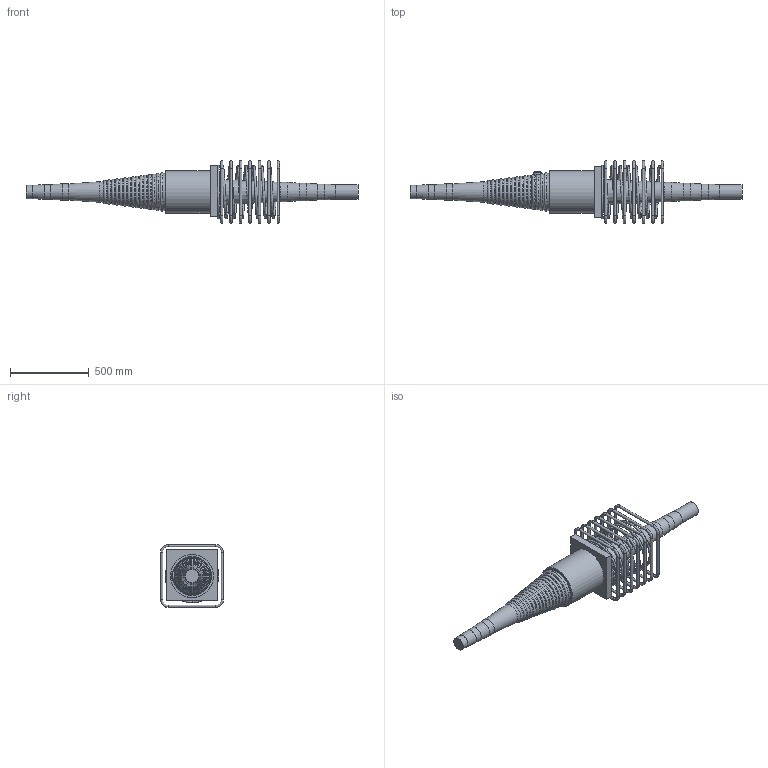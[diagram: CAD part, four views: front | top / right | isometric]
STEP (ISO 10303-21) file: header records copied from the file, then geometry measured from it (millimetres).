
FILE_DESCRIPTION(/* description */ (''),/* implementation_level */ '2;1');
FILE_NAME(/* name */ 'Z:\04 Publications\05 Give-out\BBR\6_3D_Models\BBR VT CONA CMI\BBR VT CONA CMI SP\01606\BBR VT CONA CMI SP 1606_Coupler H Assembly_CS-34,28.stp',/* time_stamp */ '2017-05-05T15:46:07+02:00',/* author */ ('IP'),/* organization */ (''),/* preprocessor_version */ 'ST-DEVELOPER v16.1',/* originating_system */ 'Autodesk Inventor 2016',/* authorisation */ '');
FILE_SCHEMA (('AUTOMOTIVE_DESIGN { 1 0 10303 214 3 1 1 }'));
Products named in the file (1): BBR VT CONA CMI SP 1606_Coupler H Assembly_CS-34,28
Bounding box: 2109 x 400 x 400 mm (x, y, z)
Volume: 51230367 mm3; surface area: 2104967.4 mm2
Topology: 9 solids, 9 shells, 881 faces, 2289 edges, 1471 vertices
Faces by surface type: bspline 418, plane 259, cylinder 102, torus 85, cone 17
Full cylindrical faces by diameter (mm): 16 x28, 34 x1, 57 x1, 84 x1, 91.725 x1, 94 x1, 101.793 x1, 104 x1, 111.862 x1, 121.932 x1, 273 x1
Entity records: 40094 total; most frequent: CARTESIAN_POINT 21409, ORIENTED_EDGE 4290, DIRECTION 2628, EDGE_CURVE 2143, VERTEX_POINT 1466, EDGE_LOOP 1085, LINE 910, VECTOR 910
